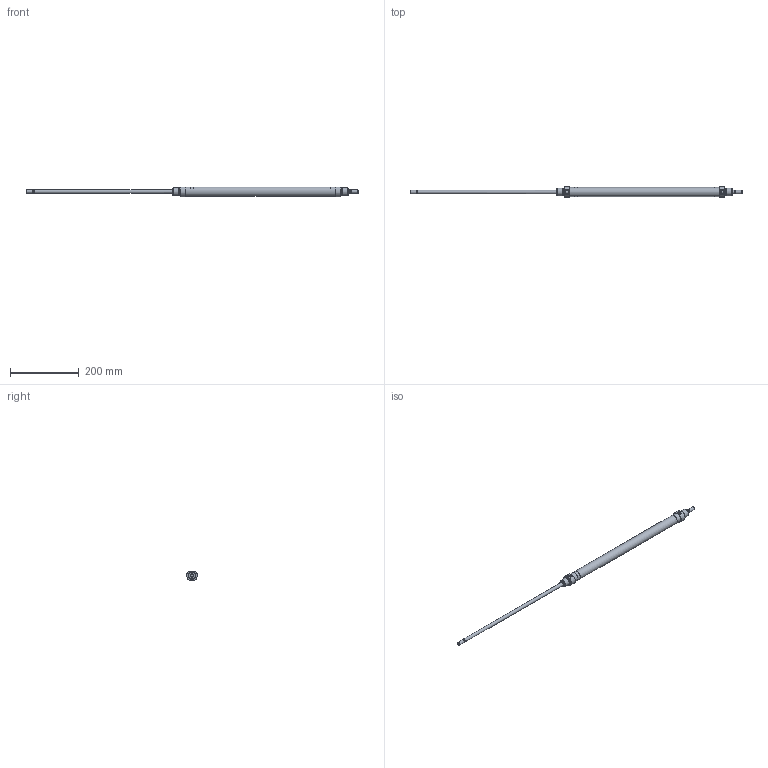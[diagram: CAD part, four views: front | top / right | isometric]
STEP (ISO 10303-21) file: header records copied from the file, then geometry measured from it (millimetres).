
FILE_DESCRIPTION( ( 'STEP AP203' ), '1' );
FILE_NAME( '//expscmdclustefs.cadenas.external/client_exchange/iodir/jobs/output/wkb68469848_no0/STEP/M101-025-0400-M__0__2_03.stp', ' ', ( ' ' ), ( ' ' ), 'PSStep 15.0.47', 'PARTsolutions', ' ' );
FILE_SCHEMA( ( 'CONFIG_CONTROL_DESIGN' ) );
Length unit declared in the file: millimetre
Products named in the file (3): M101-025-0400-M [0]; HI_M101-025-0400-M-[0]-z; HI_M101-025-0400-M-[0]-k
Assembly tree (2 placements, depth 2):
  M101-025-0400-M [0]
    HI_M101-025-0400-M-[0]-z
    HI_M101-025-0400-M-[0]-k
Bounding box: 969 x 31 x 28.79 mm (x, y, z)
Volume: 152185.7 mm3; surface area: 112739.6 mm2
Topology: 2 solids, 2 shells, 63 faces, 123 edges, 74 vertices
Faces by surface type: plane 28, cylinder 23, cone 10, torus 2
Full cylindrical faces by diameter (mm): 8.16 x2, 8.566 x2, 10 x6, 20.16 x4, 22 x4, 25 x2, 26.6 x1
Entity records: 1700 total; most frequent: CARTESIAN_POINT 390, DIRECTION 276, ORIENTED_EDGE 176, AXIS2_PLACEMENT_3D 124, EDGE_LOOP 112, EDGE_CURVE 88, FACE_OUTER_BOUND 86, VERTEX_POINT 72
